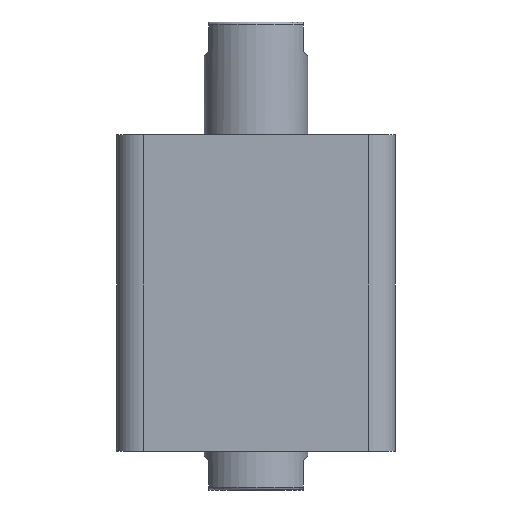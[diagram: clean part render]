
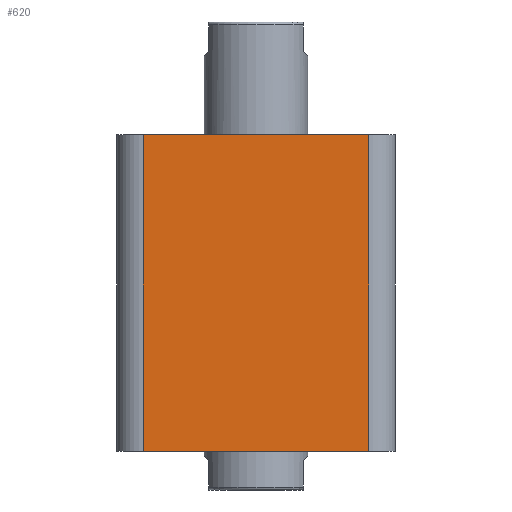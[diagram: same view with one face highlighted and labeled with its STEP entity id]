
A CAD part, front view. The second image highlights one B-rep face of the part: STEP entity #620.
In plain terms, the highlighted planar face has unit normal (0, -1, 0).
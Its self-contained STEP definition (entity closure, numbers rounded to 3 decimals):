
#42 = ORIENTED_EDGE ( 'NONE', *, *, #151, .T. ) ;
#48 = ORIENTED_EDGE ( 'NONE', *, *, #153, .F. ) ;
#49 = ORIENTED_EDGE ( 'NONE', *, *, #152, .T. ) ;
#90 = EDGE_LOOP ( 'NONE', ( #48, #49, #42, #2945 ) ) ;
#150 = EDGE_CURVE ( 'NONE', #1772, #1774, #1283, .T. ) ;
#151 = EDGE_CURVE ( 'NONE', #1773, #1772, #1284, .T. ) ;
#152 = EDGE_CURVE ( 'NONE', #3120, #1773, #1287, .T. ) ;
#153 = EDGE_CURVE ( 'NONE', #3120, #1774, #1289, .T. ) ;
#418 = AXIS2_PLACEMENT_3D ( 'NONE', #904, #908, #909 ) ;
#620 = ADVANCED_FACE ( 'NONE', ( #1562 ), #906, .F. ) ;
#904 = CARTESIAN_POINT ( 'NONE',  ( -47., -47., 107. ) ) ;
#906 = PLANE ( 'NONE',  #418 ) ;
#908 = DIRECTION ( 'NONE',  ( 0., 1., 0. ) ) ;
#909 = DIRECTION ( 'NONE',  ( 0., 0., 1. ) ) ;
#1033 = CARTESIAN_POINT ( 'NONE',  ( -38., -47., 0. ) ) ;
#1040 = CARTESIAN_POINT ( 'NONE',  ( 38., -47., 0. ) ) ;
#1050 = CARTESIAN_POINT ( 'NONE',  ( 38., -47., 107. ) ) ;
#1283 = LINE ( 'NONE', #2313, #1286 ) ;
#1284 = LINE ( 'NONE', #2312, #1288 ) ;
#1286 = VECTOR ( 'NONE', #2295, 1000. ) ;
#1287 = LINE ( 'NONE', #2318, #1290 ) ;
#1288 = VECTOR ( 'NONE', #2317, 1000. ) ;
#1289 = LINE ( 'NONE', #2320, #1292 ) ;
#1290 = VECTOR ( 'NONE', #2319, 1000. ) ;
#1292 = VECTOR ( 'NONE', #2321, 1000. ) ;
#1562 = FACE_OUTER_BOUND ( 'NONE', #90, .T. ) ;
#1772 = VERTEX_POINT ( 'NONE', #1040 ) ;
#1773 = VERTEX_POINT ( 'NONE', #1033 ) ;
#1774 = VERTEX_POINT ( 'NONE', #1050 ) ;
#2295 = DIRECTION ( 'NONE',  ( 0., 0., 1. ) ) ;
#2312 = CARTESIAN_POINT ( 'NONE',  ( -47., -47., 0. ) ) ;
#2313 = CARTESIAN_POINT ( 'NONE',  ( 38., -47., 107. ) ) ;
#2317 = DIRECTION ( 'NONE',  ( 1., 0., 0. ) ) ;
#2318 = CARTESIAN_POINT ( 'NONE',  ( -38., -47., 107. ) ) ;
#2319 = DIRECTION ( 'NONE',  ( 0., 0., -1. ) ) ;
#2320 = CARTESIAN_POINT ( 'NONE',  ( -47., -47., 107. ) ) ;
#2321 = DIRECTION ( 'NONE',  ( 1., 0., 0. ) ) ;
#2699 = CARTESIAN_POINT ( 'NONE',  ( -38., -47., 107. ) ) ;
#2945 = ORIENTED_EDGE ( 'NONE', *, *, #150, .T. ) ;
#3120 = VERTEX_POINT ( 'NONE', #2699 ) ;
